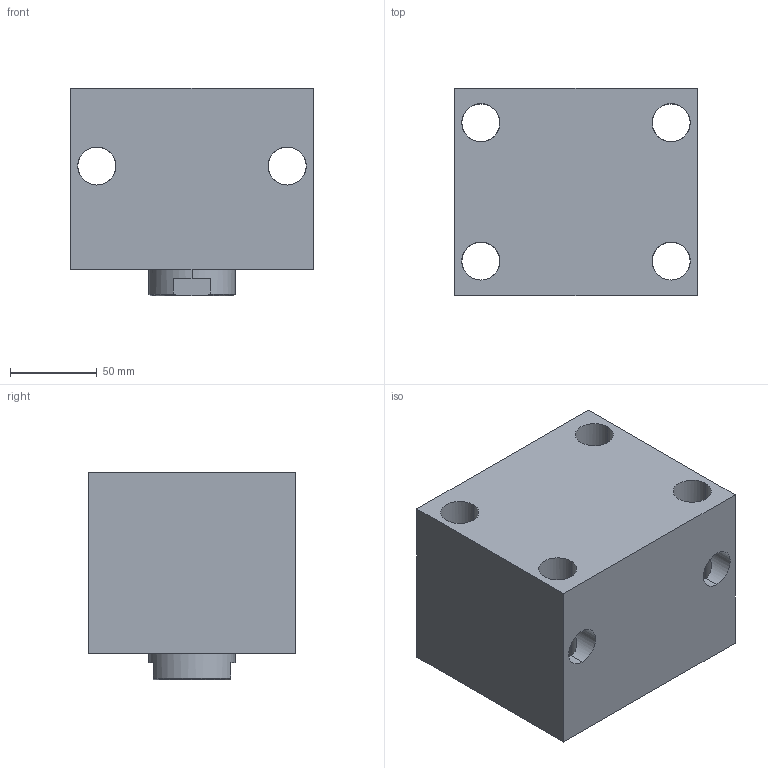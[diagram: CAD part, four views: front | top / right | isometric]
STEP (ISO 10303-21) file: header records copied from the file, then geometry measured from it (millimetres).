
FILE_DESCRIPTION (( 'STEP AP203' ), '1' );
FILE_NAME ('Block cylinder B01C-825F.STEP', '2022-07-09T18:37:54', ( '' ), ( '' ), 'SwSTEP 2.0', 'SolidWorks 2017', '' );
FILE_SCHEMA (( 'CONFIG_CONTROL_DESIGN' ));
Length unit declared in the file: millimetre
Products named in the file (3): Body_ 825F_50ST; Piston _825F; Block cylinder B01C-825F
Assembly tree (2 placements, depth 2):
  Block cylinder B01C-825F
    Body_ 825F_50ST
    Piston _825F
Bounding box: 140 x 120 x 120 mm (x, y, z)
Volume: 1642271.1 mm3; surface area: 162448.4 mm2
Topology: 2 solids, 2 shells, 351 faces, 960 edges, 627 vertices
Faces by surface type: bspline 158, plane 141, cylinder 44, cone 8
Entity records: 17881 total; most frequent: CARTESIAN_POINT 9829, ORIENTED_EDGE 1908, DIRECTION 1060, EDGE_CURVE 954, VERTEX_POINT 627, LINE 540, VECTOR 540, EDGE_LOOP 391
